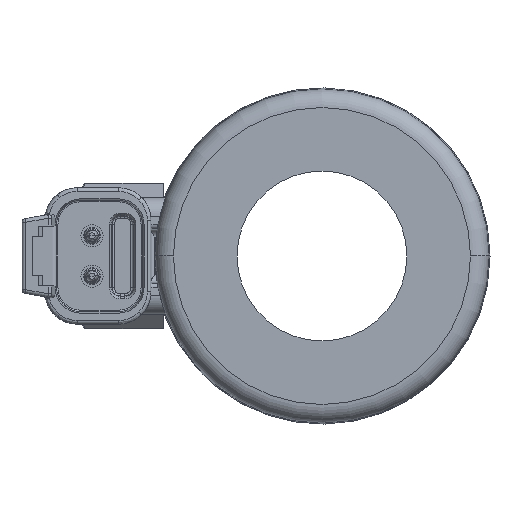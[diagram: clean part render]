
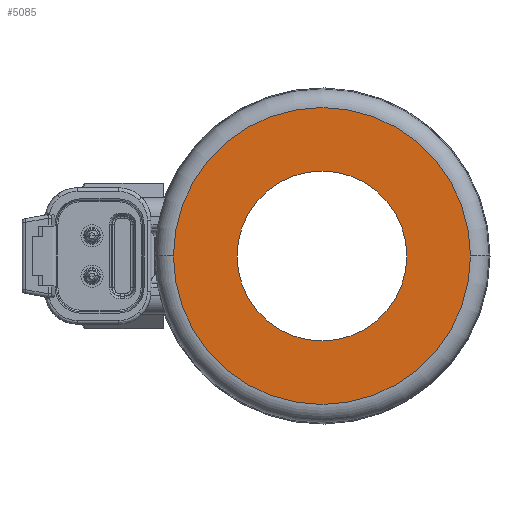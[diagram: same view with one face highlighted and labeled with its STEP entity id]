
A CAD part, left-side view. The second image highlights one B-rep face of the part: STEP entity #5085.
In plain terms, the highlighted planar face has unit normal (-1, 0, 0).
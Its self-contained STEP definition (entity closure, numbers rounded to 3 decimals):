
#33 = FACE_BOUND ( 'NONE', #8452, .T. ) ;
#704 = EDGE_CURVE ( 'NONE', #13843, #12045, #4313, .T. ) ;
#778 = EDGE_CURVE ( 'NONE', #15065, #15870, #9506, .T. ) ;
#825 = AXIS2_PLACEMENT_3D ( 'NONE', #12274, #12272, #12257 ) ;
#852 = AXIS2_PLACEMENT_3D ( 'NONE', #13823, #13776, #13756 ) ;
#2023 = CARTESIAN_POINT ( 'NONE',  ( -50.1, 20.15, 0. ) ) ;
#2158 = AXIS2_PLACEMENT_3D ( 'NONE', #5082, #5027, #5005 ) ;
#2521 = CARTESIAN_POINT ( 'NONE',  ( -50.1, 0., 0. ) ) ;
#2535 = DIRECTION ( 'NONE',  ( -1., 0., 0. ) ) ;
#2580 = DIRECTION ( 'NONE',  ( 0., -1., 0. ) ) ;
#4313 = CIRCLE ( 'NONE', #852, 20.15 ) ;
#4590 = EDGE_LOOP ( 'NONE', ( #15500, #12949 ) ) ;
#5005 = DIRECTION ( 'NONE',  ( 0., 1., 0. ) ) ;
#5027 = DIRECTION ( 'NONE',  ( 1., 0., 0. ) ) ;
#5082 = CARTESIAN_POINT ( 'NONE',  ( -50.1, -16.888, 0. ) ) ;
#5085 = ADVANCED_FACE ( 'NONE', ( #33, #13340 ), #5386, .F. ) ;
#5324 = CARTESIAN_POINT ( 'NONE',  ( -50.1, -11.525, 0. ) ) ;
#5386 = PLANE ( 'NONE',  #2158 ) ;
#5682 = EDGE_CURVE ( 'NONE', #15870, #15065, #6432, .T. ) ;
#5887 = EDGE_CURVE ( 'NONE', #12045, #13843, #14068, .T. ) ;
#6432 = CIRCLE ( 'NONE', #15223, 11.525 ) ;
#8393 = ORIENTED_EDGE ( 'NONE', *, *, #5682, .F. ) ;
#8452 = EDGE_LOOP ( 'NONE', ( #13871, #8393 ) ) ;
#9506 = CIRCLE ( 'NONE', #825, 11.525 ) ;
#12038 = CARTESIAN_POINT ( 'NONE',  ( -50.1, 11.525, 0. ) ) ;
#12045 = VERTEX_POINT ( 'NONE', #15330 ) ;
#12257 = DIRECTION ( 'NONE',  ( 0., -1., 0. ) ) ;
#12272 = DIRECTION ( 'NONE',  ( -1., 0., 0. ) ) ;
#12274 = CARTESIAN_POINT ( 'NONE',  ( -50.1, 0., 0. ) ) ;
#12923 = AXIS2_PLACEMENT_3D ( 'NONE', #15318, #15314, #15295 ) ;
#12949 = ORIENTED_EDGE ( 'NONE', *, *, #5887, .F. ) ;
#13340 = FACE_OUTER_BOUND ( 'NONE', #4590, .T. ) ;
#13756 = DIRECTION ( 'NONE',  ( 0., 1., 0. ) ) ;
#13776 = DIRECTION ( 'NONE',  ( 1., 0., 0. ) ) ;
#13823 = CARTESIAN_POINT ( 'NONE',  ( -50.1, 0., 0. ) ) ;
#13843 = VERTEX_POINT ( 'NONE', #2023 ) ;
#13871 = ORIENTED_EDGE ( 'NONE', *, *, #778, .F. ) ;
#14068 = CIRCLE ( 'NONE', #12923, 20.15 ) ;
#15065 = VERTEX_POINT ( 'NONE', #12038 ) ;
#15223 = AXIS2_PLACEMENT_3D ( 'NONE', #2521, #2535, #2580 ) ;
#15295 = DIRECTION ( 'NONE',  ( 0., 1., 0. ) ) ;
#15314 = DIRECTION ( 'NONE',  ( 1., 0., 0. ) ) ;
#15318 = CARTESIAN_POINT ( 'NONE',  ( -50.1, 0., 0. ) ) ;
#15330 = CARTESIAN_POINT ( 'NONE',  ( -50.1, -20.15, 0. ) ) ;
#15500 = ORIENTED_EDGE ( 'NONE', *, *, #704, .F. ) ;
#15870 = VERTEX_POINT ( 'NONE', #5324 ) ;
